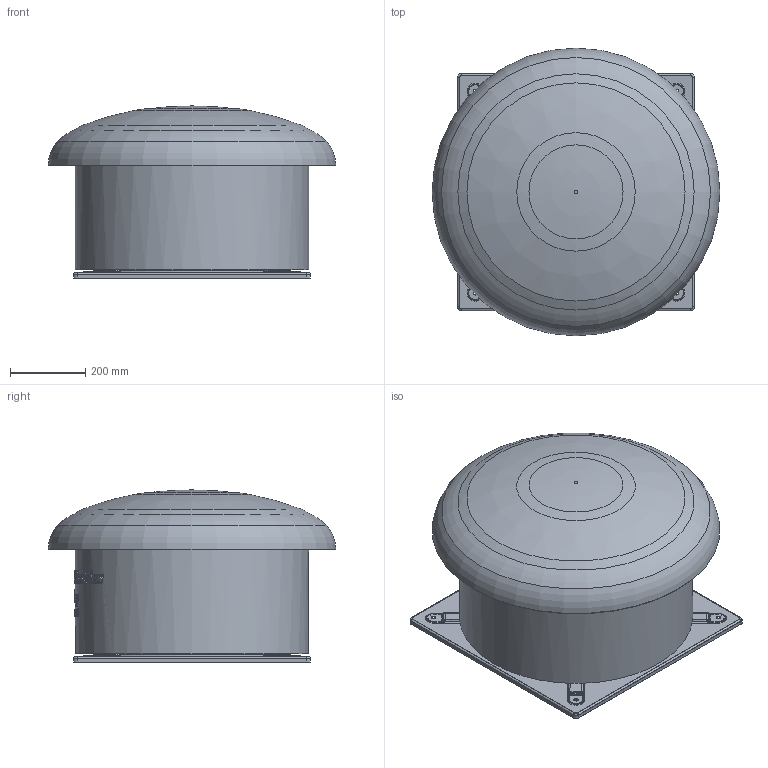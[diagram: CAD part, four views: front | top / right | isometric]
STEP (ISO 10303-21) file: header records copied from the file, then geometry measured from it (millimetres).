
FILE_DESCRIPTION(/* description */ (''),/* implementation_level */ '2;1');
FILE_NAME(/* name */ 'D:\Piotr - Dokumenty\Modele uproszczone\RF\RF X-450X\gotowe\RF_X_450_X SIMPLIFIED.stp',/* time_stamp */ '2021-03-09T12:36:55+01:00',/* author */ ('Piotr.Nowotniak'),/* organization */ (''),/* preprocessor_version */ 'ST-DEVELOPER v18',/* originating_system */ 'Autodesk Inventor 2020',/* authorisation */ '');
FILE_SCHEMA (('AUTOMOTIVE_DESIGN { 1 0 10303 214 3 1 1 }'));
Length unit declared in the file: millimetre
Products named in the file (1): RF_X_450_X SIMPLIFIED
Bounding box: 765 x 765 x 457.43 mm (x, y, z)
Volume: 134999004.4 mm3; surface area: 2098495.7 mm2
Topology: 1 solids, 1 shells, 876 faces, 2331 edges, 1506 vertices
Faces by surface type: bspline 430, plane 272, cylinder 129, torus 34, cone 11
Full cylindrical faces by diameter (mm): 6.5 x4, 12 x4, 487.856 x1, 620 x1
Entity records: 39469 total; most frequent: CARTESIAN_POINT 19013, ORIENTED_EDGE 4662, DIRECTION 3109, EDGE_CURVE 2331, VERTEX_POINT 1506, AXIS2_PLACEMENT_3D 1166, EDGE_LOOP 941, STYLED_ITEM 877
